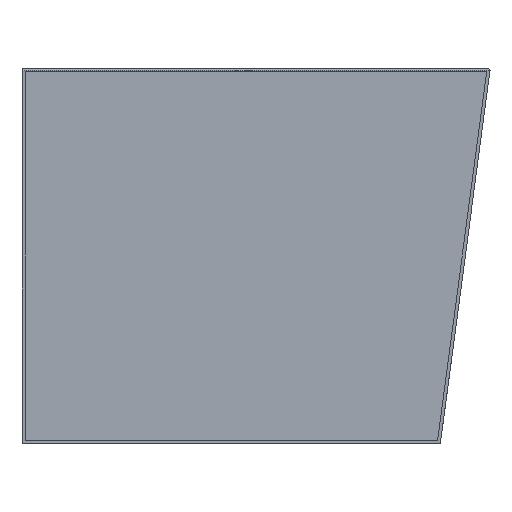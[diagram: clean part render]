
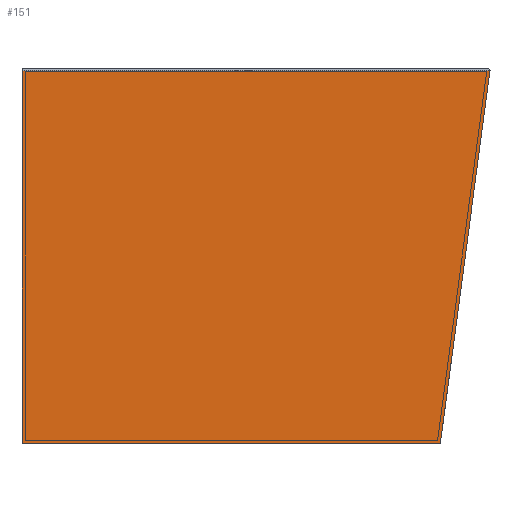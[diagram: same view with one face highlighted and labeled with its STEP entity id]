
A CAD part, left-side view. The second image highlights one B-rep face of the part: STEP entity #151.
In plain terms, the highlighted planar face has unit normal (-1, 0, 0).
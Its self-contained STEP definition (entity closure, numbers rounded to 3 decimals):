
#124=FACE_OUTER_BOUND('',#233,.T.);
#140=CIRCLE('',#581,3.);
#151=ADVANCED_FACE('',(#124),#183,.T.);
#183=PLANE('',#582);
#233=EDGE_LOOP('',(#345,#346,#347,#348,#349));
#276=LINE('',#776,#300);
#288=LINE('',#1113,#312);
#289=LINE('',#1118,#313);
#300=VECTOR('',#610,1.);
#312=VECTOR('',#630,1.);
#313=VECTOR('',#635,1.);
#345=ORIENTED_EDGE('',*,*,#508,.T.);
#346=ORIENTED_EDGE('',*,*,#509,.T.);
#347=ORIENTED_EDGE('',*,*,#507,.T.);
#348=ORIENTED_EDGE('',*,*,#489,.F.);
#349=ORIENTED_EDGE('',*,*,#510,.F.);
#444=VERTEX_POINT('',#774);
#446=VERTEX_POINT('',#777);
#460=VERTEX_POINT('',#1108);
#463=VERTEX_POINT('',#1116);
#464=VERTEX_POINT('',#1117);
#489=EDGE_CURVE('',#444,#446,#276,.T.);
#507=EDGE_CURVE('',#460,#446,#288,.T.);
#508=EDGE_CURVE('',#463,#464,#140,.T.);
#509=EDGE_CURVE('',#464,#460,#289,.T.);
#510=EDGE_CURVE('',#463,#444,#554,.T.);
#554=B_SPLINE_CURVE_WITH_KNOTS('',1,(#1119,#1120),.UNSPECIFIED.,.F.,.F.,
(2,2),(0.,1.),.UNSPECIFIED.);
#581=AXIS2_PLACEMENT_3D('',#1115,#633,#634);
#582=AXIS2_PLACEMENT_3D('',#1121,#636,#637);
#610=DIRECTION('',(0.,1.,0.));
#630=DIRECTION('',(0.,0.,-1.));
#633=DIRECTION('',(-1.,0.,0.));
#634=DIRECTION('',(0.,-1.,0.));
#635=DIRECTION('',(0.,1.,0.));
#636=DIRECTION('',(-1.,0.,0.));
#637=DIRECTION('',(0.,1.,0.));
#774=CARTESIAN_POINT('',(-800.,-264.,-600.));
#776=CARTESIAN_POINT('',(-800.,71.,-600.));
#777=CARTESIAN_POINT('',(-800.,406.,-600.));
#1108=CARTESIAN_POINT('',(-800.,406.,-3.));
#1113=CARTESIAN_POINT('',(-800.,406.,-300.));
#1115=CARTESIAN_POINT('',(-800.,-340.573,-3.));
#1116=CARTESIAN_POINT('',(-800.,-343.547,-3.396));
#1117=CARTESIAN_POINT('',(-800.,-343.573,-3.));
#1118=CARTESIAN_POINT('',(-800.,406.,-3.));
#1119=CARTESIAN_POINT('',(-800.,-343.547,-3.396));
#1120=CARTESIAN_POINT('',(-800.,-264.,-600.));
#1121=CARTESIAN_POINT('',(-800.,31.,0.));
